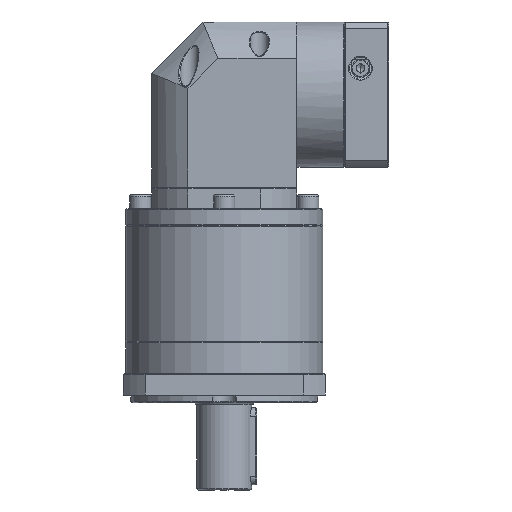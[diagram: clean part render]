
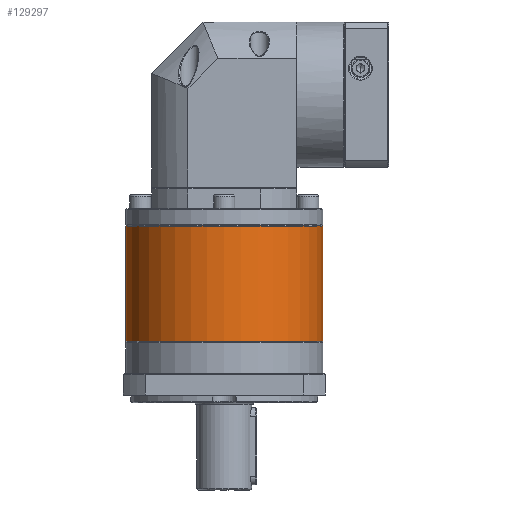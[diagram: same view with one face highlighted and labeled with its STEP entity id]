
A CAD part, front view. The second image highlights one B-rep face of the part: STEP entity #129297.
In plain terms, the highlighted cylindrical face has radius 57.5 mm (diameter 115 mm), a partial arc.
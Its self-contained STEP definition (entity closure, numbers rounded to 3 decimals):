
#1221 = ORIENTED_EDGE ( 'NONE', *, *, #95313, .T. ) ;
#5007 = VECTOR ( 'NONE', #56965, 1000. ) ;
#6211 = AXIS2_PLACEMENT_3D ( 'NONE', #96694, #34404, #33008 ) ;
#7481 = ORIENTED_EDGE ( 'NONE', *, *, #60455, .F. ) ;
#14593 = ORIENTED_EDGE ( 'NONE', *, *, #17315, .T. ) ;
#14861 = DIRECTION ( 'NONE',  ( -1., 0., 0. ) ) ;
#16612 = CARTESIAN_POINT ( 'NONE',  ( 21.998, 101.334, -114.558 ) ) ;
#16804 = AXIS2_PLACEMENT_3D ( 'NONE', #122683, #98874, #14861 ) ;
#17315 = EDGE_CURVE ( 'NONE', #93368, #100295, #118160, .T. ) ;
#18308 = DIRECTION ( 'NONE',  ( 0., 0., -1. ) ) ;
#18775 = CARTESIAN_POINT ( 'NONE',  ( 136.998, 101.334, -47.347 ) ) ;
#20439 = VECTOR ( 'NONE', #92309, 1000. ) ;
#22084 = LINE ( 'NONE', #123213, #20439 ) ;
#24913 = VERTEX_POINT ( 'NONE', #16612 ) ;
#33008 = DIRECTION ( 'NONE',  ( -1., 0., 0. ) ) ;
#33847 = LINE ( 'NONE', #36006, #5007 ) ;
#34404 = DIRECTION ( 'NONE',  ( 0., 0., -1. ) ) ;
#36006 = CARTESIAN_POINT ( 'NONE',  ( 21.998, 101.334, -46.847 ) ) ;
#42409 = AXIS2_PLACEMENT_3D ( 'NONE', #128948, #18308, #94271 ) ;
#50430 = EDGE_CURVE ( 'NONE', #100295, #134936, #115824, .T. ) ;
#52247 = DIRECTION ( 'NONE',  ( 0., 0., 1. ) ) ;
#56965 = DIRECTION ( 'NONE',  ( 0., 0., -1. ) ) ;
#60455 = EDGE_CURVE ( 'NONE', #93368, #74583, #22084, .T. ) ;
#61698 = AXIS2_PLACEMENT_3D ( 'NONE', #74552, #52247, #63139 ) ;
#63139 = DIRECTION ( 'NONE',  ( -1., 0., 0. ) ) ;
#63290 = CARTESIAN_POINT ( 'NONE',  ( 21.998, 101.334, -47.347 ) ) ;
#68012 = ORIENTED_EDGE ( 'NONE', *, *, #50430, .T. ) ;
#69325 = CARTESIAN_POINT ( 'NONE',  ( 136.998, 101.334, -114.558 ) ) ;
#72158 = CYLINDRICAL_SURFACE ( 'NONE', #6211, 57.5 ) ;
#74552 = CARTESIAN_POINT ( 'NONE',  ( 79.498, 101.334, -114.558 ) ) ;
#74583 = VERTEX_POINT ( 'NONE', #69325 ) ;
#88080 = CARTESIAN_POINT ( 'NONE',  ( 79.498, 43.834, -47.347 ) ) ;
#92309 = DIRECTION ( 'NONE',  ( 0., 0., -1. ) ) ;
#93368 = VERTEX_POINT ( 'NONE', #18775 ) ;
#94271 = DIRECTION ( 'NONE',  ( -1., 0., 0. ) ) ;
#95313 = EDGE_CURVE ( 'NONE', #24913, #74583, #100541, .T. ) ;
#96694 = CARTESIAN_POINT ( 'NONE',  ( 79.498, 101.334, -46.847 ) ) ;
#97225 = EDGE_CURVE ( 'NONE', #134936, #24913, #33847, .T. ) ;
#98874 = DIRECTION ( 'NONE',  ( 0., 0., -1. ) ) ;
#100295 = VERTEX_POINT ( 'NONE', #88080 ) ;
#100541 = CIRCLE ( 'NONE', #61698, 57.5 ) ;
#105557 = ORIENTED_EDGE ( 'NONE', *, *, #97225, .T. ) ;
#114652 = FACE_OUTER_BOUND ( 'NONE', #129834, .T. ) ;
#115824 = CIRCLE ( 'NONE', #16804, 57.5 ) ;
#118160 = CIRCLE ( 'NONE', #42409, 57.5 ) ;
#122683 = CARTESIAN_POINT ( 'NONE',  ( 79.498, 101.334, -47.347 ) ) ;
#123213 = CARTESIAN_POINT ( 'NONE',  ( 136.998, 101.334, -46.847 ) ) ;
#128948 = CARTESIAN_POINT ( 'NONE',  ( 79.498, 101.334, -47.347 ) ) ;
#129297 = ADVANCED_FACE ( 'NONE', ( #114652 ), #72158, .T. ) ;
#129834 = EDGE_LOOP ( 'NONE', ( #7481, #14593, #68012, #105557, #1221 ) ) ;
#134936 = VERTEX_POINT ( 'NONE', #63290 ) ;
